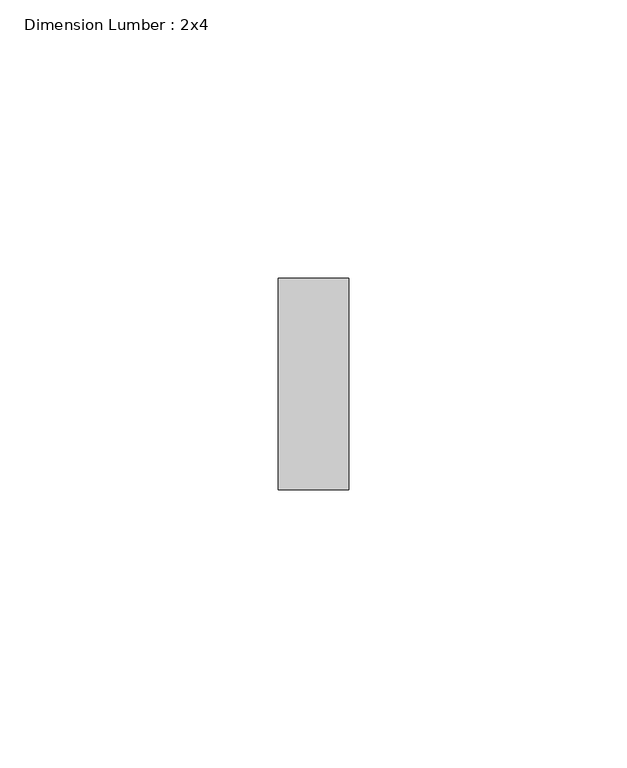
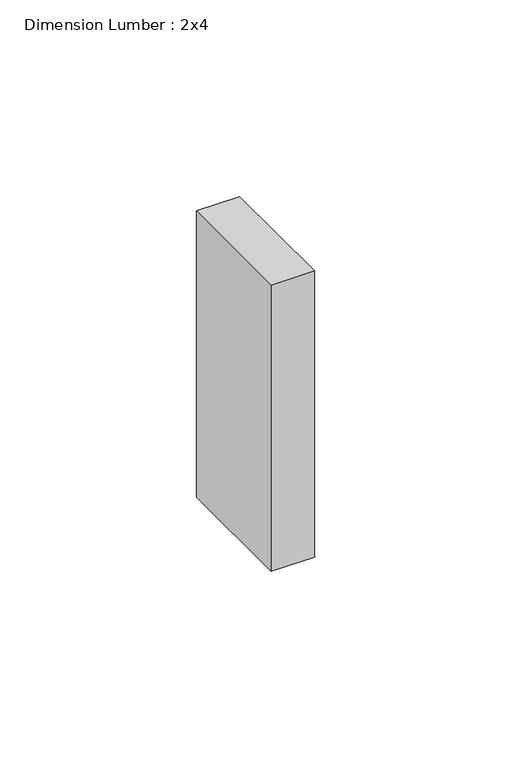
"""IFC4 building model written with IfcOpenShell, lengths in millimetres: beam geometry, Dimension Lumber : 2x4."""

from ifc_helpers import new_model, si_unit, frame, origin, place, context, project, spatial, polyline, outline, extrude, source, transform, mapped, element, save


def dimension_lumber_2x4_077a2837(model_context):
    return source(origin(), model_context, "Body", "SweptSolid", [
        extrude(outline(polyline([(6.35, 19.05), (6.35, -19.05), (-6.35, -19.05), (-6.35, 19.05), (6.35, 19.05)])), frame((0.0, 0.0, -44.45), z_axis=(0.0, 0.0, 1.0), x_axis=(1.0, 0.0, 0.0)), (0.0, 0.0, 1.0), 88.9),
    ])


if __name__ == "__main__":
    model = new_model("IFC4")
    model_context = context("Model", 3, world=origin())
    ifc_project = project(units=[si_unit("LENGTHUNIT", "METRE", prefix="MILLI")], contexts=[model_context])
    site = spatial("IfcSite", under=ifc_project)
    building = spatial("IfcBuilding", under=site)
    placement = place(None, origin())
    dimension_lumber_2x4_shape = dimension_lumber_2x4_077a2837(model_context)
    element("IfcBeam", 1, ObjectType="Dimension Lumber : 2x4", at=placement, inside=building, context=model_context, shape_type="MappedRepresentation", body=[
        mapped(dimension_lumber_2x4_shape, transform((0.0, 0.0, 0.0), x_axis=(1.0, 0.0, 0.0), y_axis=(0.0, 1.0, 0.0), z_axis=(0.0, 0.0, 1.0))),
    ])
    save(model, "model.ifc")
